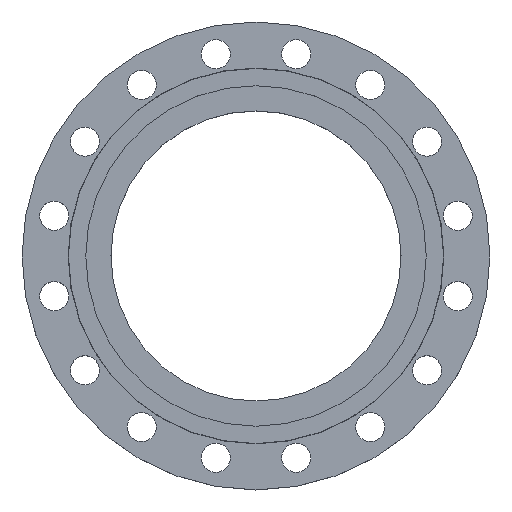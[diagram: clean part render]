
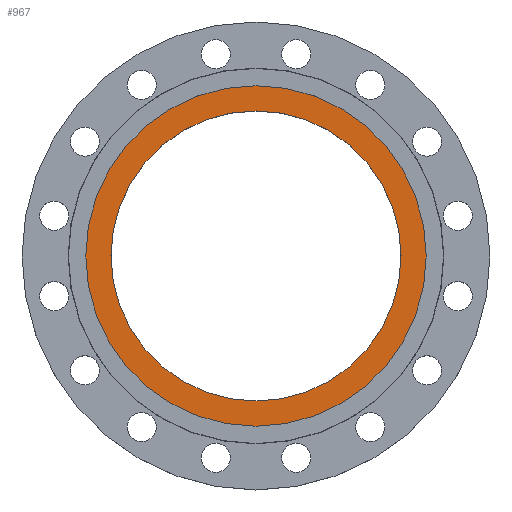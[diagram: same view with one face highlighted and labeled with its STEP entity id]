
A CAD part, top view. The second image highlights one B-rep face of the part: STEP entity #967.
In plain terms, the highlighted planar face has unit normal (0, 0, 1).
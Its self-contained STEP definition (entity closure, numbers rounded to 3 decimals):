
#24 = VERTEX_POINT ( 'NONE', #1689 ) ;
#45 = EDGE_CURVE ( 'NONE', #401, #470, #347, .T. ) ;
#110 = CIRCLE ( 'NONE', #120, 211. ) ;
#120 = AXIS2_PLACEMENT_3D ( 'NONE', #1472, #1471, #1470 ) ;
#130 = EDGE_LOOP ( 'NONE', ( #843, #844 ) ) ;
#142 = EDGE_LOOP ( 'NONE', ( #847, #849 ) ) ;
#347 = CIRCLE ( 'NONE', #614, 179.75 ) ;
#399 = CIRCLE ( 'NONE', #403, 179.75 ) ;
#401 = VERTEX_POINT ( 'NONE', #1591 ) ;
#403 = AXIS2_PLACEMENT_3D ( 'NONE', #1059, #1048, #1009 ) ;
#470 = VERTEX_POINT ( 'NONE', #1553 ) ;
#495 = DIRECTION ( 'NONE',  ( -1., 0., 0. ) ) ;
#496 = DIRECTION ( 'NONE',  ( 0., 0., -1. ) ) ;
#497 = CARTESIAN_POINT ( 'NONE',  ( 0., 0., -5. ) ) ;
#614 = AXIS2_PLACEMENT_3D ( 'NONE', #1661, #1659, #1658 ) ;
#616 = AXIS2_PLACEMENT_3D ( 'NONE', #1110, #1109, #1108 ) ;
#620 = EDGE_CURVE ( 'NONE', #798, #24, #110, .T. ) ;
#792 = CIRCLE ( 'NONE', #1106, 211. ) ;
#798 = VERTEX_POINT ( 'NONE', #1340 ) ;
#843 = ORIENTED_EDGE ( 'NONE', *, *, #45, .F. ) ;
#844 = ORIENTED_EDGE ( 'NONE', *, *, #1037, .F. ) ;
#847 = ORIENTED_EDGE ( 'NONE', *, *, #1336, .F. ) ;
#849 = ORIENTED_EDGE ( 'NONE', *, *, #620, .F. ) ;
#967 = ADVANCED_FACE ( 'NONE', ( #1113, #1112 ), #1111, .T. ) ;
#1009 = DIRECTION ( 'NONE',  ( 1., 0., 0. ) ) ;
#1037 = EDGE_CURVE ( 'NONE', #470, #401, #399, .T. ) ;
#1048 = DIRECTION ( 'NONE',  ( 0., 0., 1. ) ) ;
#1059 = CARTESIAN_POINT ( 'NONE',  ( 0., 0., -5. ) ) ;
#1106 = AXIS2_PLACEMENT_3D ( 'NONE', #497, #496, #495 ) ;
#1108 = DIRECTION ( 'NONE',  ( 1., 0., 0. ) ) ;
#1109 = DIRECTION ( 'NONE',  ( 0., 0., 1. ) ) ;
#1110 = CARTESIAN_POINT ( 'NONE',  ( 211., 0., -5. ) ) ;
#1111 = PLANE ( 'NONE',  #616 ) ;
#1112 = FACE_OUTER_BOUND ( 'NONE', #142, .T. ) ;
#1113 = FACE_BOUND ( 'NONE', #130, .T. ) ;
#1336 = EDGE_CURVE ( 'NONE', #24, #798, #792, .T. ) ;
#1340 = CARTESIAN_POINT ( 'NONE',  ( 211., 0., -5. ) ) ;
#1470 = DIRECTION ( 'NONE',  ( -1., 0., 0. ) ) ;
#1471 = DIRECTION ( 'NONE',  ( 0., 0., -1. ) ) ;
#1472 = CARTESIAN_POINT ( 'NONE',  ( 0., 0., -5. ) ) ;
#1553 = CARTESIAN_POINT ( 'NONE',  ( -179.75, 0., -5. ) ) ;
#1591 = CARTESIAN_POINT ( 'NONE',  ( 179.75, 0., -5. ) ) ;
#1658 = DIRECTION ( 'NONE',  ( 1., 0., 0. ) ) ;
#1659 = DIRECTION ( 'NONE',  ( 0., 0., 1. ) ) ;
#1661 = CARTESIAN_POINT ( 'NONE',  ( 0., 0., -5. ) ) ;
#1689 = CARTESIAN_POINT ( 'NONE',  ( -211., 0., -5. ) ) ;
